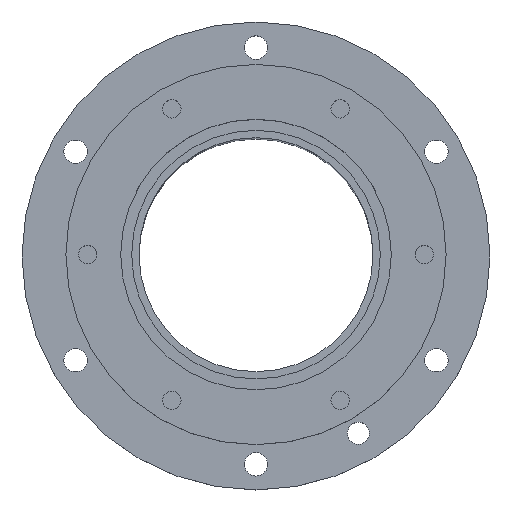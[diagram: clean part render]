
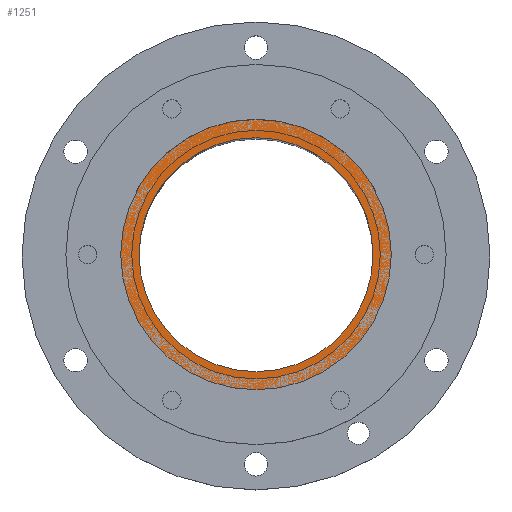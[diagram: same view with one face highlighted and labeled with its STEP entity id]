
A CAD part, top view. The second image highlights one B-rep face of the part: STEP entity #1251.
In plain terms, the highlighted planar face has unit normal (0, 0, 1).
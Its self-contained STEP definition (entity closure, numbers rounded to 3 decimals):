
#43 = CYLINDRICAL_SURFACE('',#44,16.);
#44 = AXIS2_PLACEMENT_3D('',#45,#46,#47);
#45 = CARTESIAN_POINT('',(0.,0.,169.));
#46 = DIRECTION('',(-0.,-0.,-1.));
#47 = DIRECTION('',(1.,0.,0.));
#90 = VERTEX_POINT('',#91);
#91 = CARTESIAN_POINT('',(16.,0.,169.));
#114 = EDGE_CURVE('',#90,#90,#115,.T.);
#115 = SURFACE_CURVE('',#116,(#121,#128),.PCURVE_S1.);
#116 = CIRCLE('',#117,16.);
#117 = AXIS2_PLACEMENT_3D('',#118,#119,#120);
#118 = CARTESIAN_POINT('',(0.,0.,169.));
#119 = DIRECTION('',(0.,0.,1.));
#120 = DIRECTION('',(1.,0.,-0.));
#121 = PCURVE('',#43,#122);
#122 = DEFINITIONAL_REPRESENTATION('',(#123),#127);
#123 = LINE('',#124,#125);
#124 = CARTESIAN_POINT('',(-0.,0.));
#125 = VECTOR('',#126,1.);
#126 = DIRECTION('',(-1.,0.));
#127 = ( GEOMETRIC_REPRESENTATION_CONTEXT(2) 
PARAMETRIC_REPRESENTATION_CONTEXT() REPRESENTATION_CONTEXT('2D SPACE',''
  ) );
#128 = PCURVE('',#129,#134);
#129 = PLANE('',#130);
#130 = AXIS2_PLACEMENT_3D('',#131,#132,#133);
#131 = CARTESIAN_POINT('',(0.,0.,169.));
#132 = DIRECTION('',(0.,0.,1.));
#133 = DIRECTION('',(1.,0.,-0.));
#134 = DEFINITIONAL_REPRESENTATION('',(#135),#139);
#135 = CIRCLE('',#136,16.);
#136 = AXIS2_PLACEMENT_2D('',#137,#138);
#137 = CARTESIAN_POINT('',(0.,0.));
#138 = DIRECTION('',(1.,0.));
#139 = ( GEOMETRIC_REPRESENTATION_CONTEXT(2) 
PARAMETRIC_REPRESENTATION_CONTEXT() REPRESENTATION_CONTEXT('2D SPACE',''
  ) );
#1251 = ADVANCED_FACE('',(#1252,#1283),#129,.T.);
#1252 = FACE_BOUND('',#1253,.T.);
#1253 = EDGE_LOOP('',(#1254));
#1254 = ORIENTED_EDGE('',*,*,#1255,.T.);
#1255 = EDGE_CURVE('',#1256,#1256,#1258,.T.);
#1256 = VERTEX_POINT('',#1257);
#1257 = CARTESIAN_POINT('',(18.5,0.,169.));
#1258 = SURFACE_CURVE('',#1259,(#1264,#1271),.PCURVE_S1.);
#1259 = CIRCLE('',#1260,18.5);
#1260 = AXIS2_PLACEMENT_3D('',#1261,#1262,#1263);
#1261 = CARTESIAN_POINT('',(0.,0.,169.));
#1262 = DIRECTION('',(0.,0.,1.));
#1263 = DIRECTION('',(1.,0.,-0.));
#1264 = PCURVE('',#129,#1265);
#1265 = DEFINITIONAL_REPRESENTATION('',(#1266),#1270);
#1266 = CIRCLE('',#1267,18.5);
#1267 = AXIS2_PLACEMENT_2D('',#1268,#1269);
#1268 = CARTESIAN_POINT('',(0.,0.));
#1269 = DIRECTION('',(1.,0.));
#1270 = ( GEOMETRIC_REPRESENTATION_CONTEXT(2) 
PARAMETRIC_REPRESENTATION_CONTEXT() REPRESENTATION_CONTEXT('2D SPACE',''
  ) );
#1271 = PCURVE('',#1272,#1277);
#1272 = CYLINDRICAL_SURFACE('',#1273,18.5);
#1273 = AXIS2_PLACEMENT_3D('',#1274,#1275,#1276);
#1274 = CARTESIAN_POINT('',(0.,0.,179.));
#1275 = DIRECTION('',(-0.,-0.,-1.));
#1276 = DIRECTION('',(1.,0.,0.));
#1277 = DEFINITIONAL_REPRESENTATION('',(#1278),#1282);
#1278 = LINE('',#1279,#1280);
#1279 = CARTESIAN_POINT('',(-0.,10.));
#1280 = VECTOR('',#1281,1.);
#1281 = DIRECTION('',(-1.,0.));
#1282 = ( GEOMETRIC_REPRESENTATION_CONTEXT(2) 
PARAMETRIC_REPRESENTATION_CONTEXT() REPRESENTATION_CONTEXT('2D SPACE',''
  ) );
#1283 = FACE_BOUND('',#1284,.T.);
#1284 = EDGE_LOOP('',(#1285));
#1285 = ORIENTED_EDGE('',*,*,#114,.F.);
